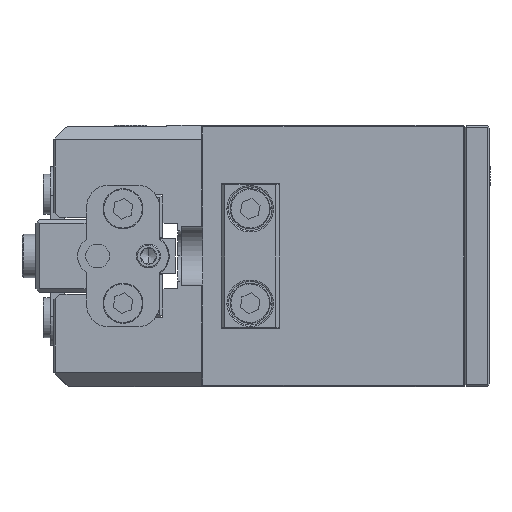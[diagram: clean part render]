
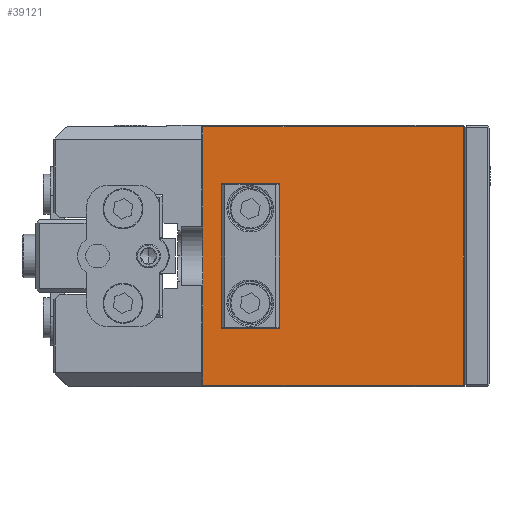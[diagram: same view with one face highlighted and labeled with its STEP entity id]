
A CAD part, left-side view. The second image highlights one B-rep face of the part: STEP entity #39121.
In plain terms, the highlighted planar face has unit normal (-1, 0, 0).
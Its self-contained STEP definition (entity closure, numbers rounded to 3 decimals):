
#635 = AXIS2_PLACEMENT_3D ( 'NONE', #30727, #3370, #26643 ) ;
#1146 = EDGE_LOOP ( 'NONE', ( #18534, #13525 ) ) ;
#2271 = DIRECTION ( 'NONE',  ( 0., 0., -1. ) ) ;
#3370 = DIRECTION ( 'NONE',  ( -1., 0., 0. ) ) ;
#3614 = EDGE_CURVE ( 'NONE', #14558, #37869, #40013, .T. ) ;
#4653 = EDGE_CURVE ( 'NONE', #4815, #11690, #49059, .T. ) ;
#4815 = VERTEX_POINT ( 'NONE', #45446 ) ;
#5116 = EDGE_CURVE ( 'NONE', #10343, #44323, #17049, .T. ) ;
#5871 = FACE_BOUND ( 'NONE', #1146, .T. ) ;
#6332 = DIRECTION ( 'NONE',  ( -1., 0., 0. ) ) ;
#6337 = CIRCLE ( 'NONE', #635, 1.25 ) ;
#6846 = CARTESIAN_POINT ( 'NONE',  ( -26., 39.5, 17.8 ) ) ;
#7357 = CARTESIAN_POINT ( 'NONE',  ( -26., 24.5, 17.8 ) ) ;
#9010 = ORIENTED_EDGE ( 'NONE', *, *, #5116, .F. ) ;
#10343 = VERTEX_POINT ( 'NONE', #18907 ) ;
#11690 = VERTEX_POINT ( 'NONE', #41904 ) ;
#12826 = EDGE_CURVE ( 'NONE', #11690, #4815, #48076, .T. ) ;
#13505 = DIRECTION ( 'NONE',  ( 0., 0., 1. ) ) ;
#13525 = ORIENTED_EDGE ( 'NONE', *, *, #14755, .F. ) ;
#14231 = DIRECTION ( 'NONE',  ( 0., 0., 1. ) ) ;
#14266 = FACE_BOUND ( 'NONE', #24328, .T. ) ;
#14558 = VERTEX_POINT ( 'NONE', #48414 ) ;
#14755 = EDGE_CURVE ( 'NONE', #37869, #14558, #6337, .T. ) ;
#17049 = LINE ( 'NONE', #32660, #35926 ) ;
#17171 = CARTESIAN_POINT ( 'NONE',  ( -26., 33., -6.5 ) ) ;
#17376 = DIRECTION ( 'NONE',  ( 1., 0., 0. ) ) ;
#18534 = ORIENTED_EDGE ( 'NONE', *, *, #3614, .F. ) ;
#18885 = DIRECTION ( 'NONE',  ( 0., 1., 0. ) ) ;
#18907 = CARTESIAN_POINT ( 'NONE',  ( -26., 3.7, 17.8 ) ) ;
#20135 = CARTESIAN_POINT ( 'NONE',  ( -26., 39.5, 18. ) ) ;
#22069 = AXIS2_PLACEMENT_3D ( 'NONE', #22689, #38282, #14231 ) ;
#22689 = CARTESIAN_POINT ( 'NONE',  ( -26., 33., 6.5 ) ) ;
#22853 = DIRECTION ( 'NONE',  ( 0., 1., 0. ) ) ;
#23427 = LINE ( 'NONE', #20135, #35521 ) ;
#23954 = VERTEX_POINT ( 'NONE', #30205 ) ;
#24328 = EDGE_LOOP ( 'NONE', ( #29642, #49147 ) ) ;
#24964 = DIRECTION ( 'NONE',  ( 0., 0., -1. ) ) ;
#25326 = VERTEX_POINT ( 'NONE', #6846 ) ;
#25966 = ORIENTED_EDGE ( 'NONE', *, *, #36712, .F. ) ;
#26032 = AXIS2_PLACEMENT_3D ( 'NONE', #17171, #32771, #48357 ) ;
#26189 = CARTESIAN_POINT ( 'NONE',  ( -26., 24.5, -17.8 ) ) ;
#26419 = LINE ( 'NONE', #26189, #37868 ) ;
#26643 = DIRECTION ( 'NONE',  ( 0., 0., 1. ) ) ;
#28858 = CARTESIAN_POINT ( 'NONE',  ( -26., 33., -6.5 ) ) ;
#29642 = ORIENTED_EDGE ( 'NONE', *, *, #12826, .F. ) ;
#29986 = EDGE_LOOP ( 'NONE', ( #43288, #25966, #9010, #35129 ) ) ;
#30205 = CARTESIAN_POINT ( 'NONE',  ( -26., 39.5, -17.8 ) ) ;
#30727 = CARTESIAN_POINT ( 'NONE',  ( -26., 33., 6.5 ) ) ;
#31911 = AXIS2_PLACEMENT_3D ( 'NONE', #28858, #6332, #13505 ) ;
#31966 = CARTESIAN_POINT ( 'NONE',  ( -26., 33., 5.25 ) ) ;
#32660 = CARTESIAN_POINT ( 'NONE',  ( -26., 3.7, 18. ) ) ;
#32771 = DIRECTION ( 'NONE',  ( -1., 0., 0. ) ) ;
#35129 = ORIENTED_EDGE ( 'NONE', *, *, #48484, .T. ) ;
#35190 = DIRECTION ( 'NONE',  ( 0., 0., 1. ) ) ;
#35521 = VECTOR ( 'NONE', #35190, 1000. ) ;
#35926 = VECTOR ( 'NONE', #24964, 1000. ) ;
#36712 = EDGE_CURVE ( 'NONE', #44323, #23954, #26419, .T. ) ;
#37565 = LINE ( 'NONE', #7357, #44126 ) ;
#37578 = FACE_OUTER_BOUND ( 'NONE', #29986, .T. ) ;
#37868 = VECTOR ( 'NONE', #22853, 1000. ) ;
#37869 = VERTEX_POINT ( 'NONE', #31966 ) ;
#38282 = DIRECTION ( 'NONE',  ( -1., 0., 0. ) ) ;
#38415 = CARTESIAN_POINT ( 'NONE',  ( -26., 3.7, -17.8 ) ) ;
#39121 = ADVANCED_FACE ( 'NONE', ( #5871, #14266, #37578 ), #41880, .F. ) ;
#40013 = CIRCLE ( 'NONE', #22069, 1.25 ) ;
#41493 = EDGE_CURVE ( 'NONE', #23954, #25326, #23427, .T. ) ;
#41659 = CARTESIAN_POINT ( 'NONE',  ( -26., 24.5, 18. ) ) ;
#41880 = PLANE ( 'NONE',  #43525 ) ;
#41904 = CARTESIAN_POINT ( 'NONE',  ( -26., 33., -5.25 ) ) ;
#43288 = ORIENTED_EDGE ( 'NONE', *, *, #41493, .F. ) ;
#43525 = AXIS2_PLACEMENT_3D ( 'NONE', #41659, #17376, #2271 ) ;
#44126 = VECTOR ( 'NONE', #18885, 1000. ) ;
#44323 = VERTEX_POINT ( 'NONE', #38415 ) ;
#45446 = CARTESIAN_POINT ( 'NONE',  ( -26., 33., -7.75 ) ) ;
#48076 = CIRCLE ( 'NONE', #26032, 1.25 ) ;
#48357 = DIRECTION ( 'NONE',  ( 0., 0., 1. ) ) ;
#48414 = CARTESIAN_POINT ( 'NONE',  ( -26., 33., 7.75 ) ) ;
#48484 = EDGE_CURVE ( 'NONE', #10343, #25326, #37565, .T. ) ;
#49059 = CIRCLE ( 'NONE', #31911, 1.25 ) ;
#49147 = ORIENTED_EDGE ( 'NONE', *, *, #4653, .F. ) ;
